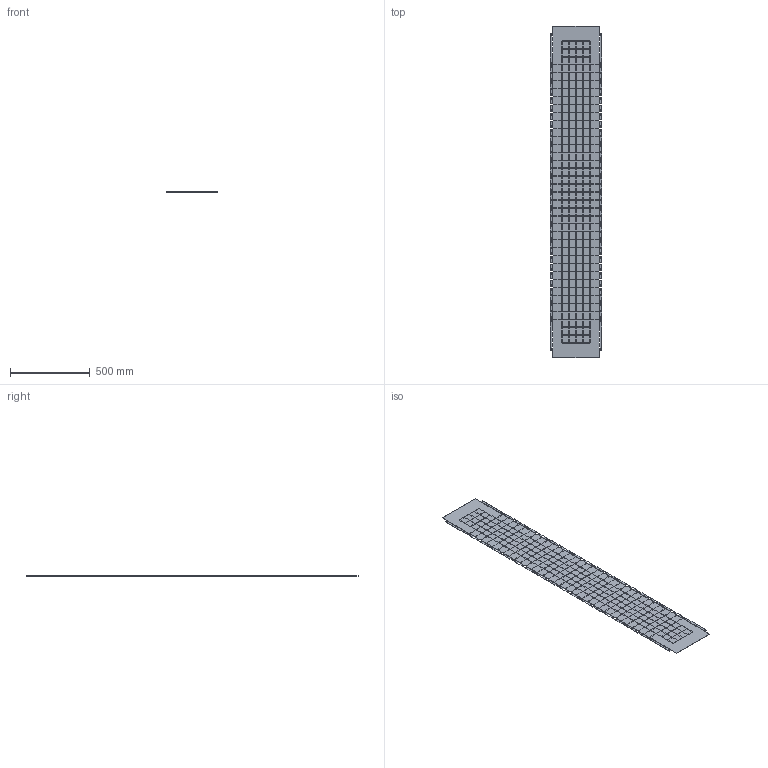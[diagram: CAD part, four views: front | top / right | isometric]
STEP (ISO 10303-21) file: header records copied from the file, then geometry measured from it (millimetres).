
FILE_DESCRIPTION (( 'STEP AP203' ), '1' );
FILE_NAME ('MA1.800.060422.03.01 Ïàíåëü âåðòèêàëüíàÿ äëÿ ñåêöèîíèðîâàíèÿ Ã400 Â2200 ìì EKF.STEP', '2024-12-02T14:04:24', ( '' ), ( '' ), 'SwSTEP 2.0', 'SolidWorks 2021', '' );
FILE_SCHEMA (( 'CONFIG_CONTROL_DESIGN' ));
Length unit declared in the file: millimetre
Products named in the file (1): MA1.800.060422.03.01 Ïàíåëü âåðòèêàëüíàÿ äëÿ ñåêöèîíèðîâàíèÿ Ã400 Â2200 ìì EKF
Bounding box: 326.6 x 2088 x 1 mm (x, y, z)
Volume: 627426.8 mm3; surface area: 1305703.7 mm2
Topology: 1 solids, 1 shells, 2814 faces, 8436 edges, 5624 vertices
Faces by surface type: plane 2670, cylinder 144
Entity records: 95721 total; most frequent: CARTESIAN_POINT 16875, ORIENTED_EDGE 16872, DIRECTION 14354, EDGE_CURVE 8436, VECTOR 8148, LINE 8148, VERTEX_POINT 5624, EDGE_LOOP 4082
